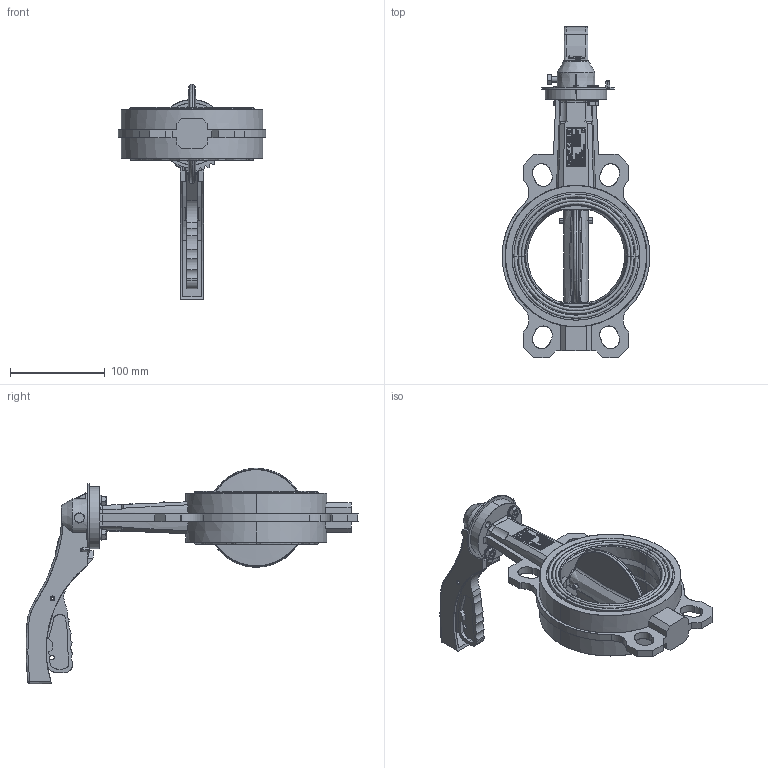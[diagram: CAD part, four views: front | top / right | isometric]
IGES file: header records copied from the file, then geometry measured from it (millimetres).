
Start section: SolidWorks IGES file using analytic representation for surfaces
Global section: file name: H:\BE BIBLIOTHEQUE 3D\BE SECTION 01 - ROBINETS A PAPILLON_VANNES PASSAGE DIRECTE\VP - Vanne Papillon\VPG\WAFER\DN100\VPG444X-02XX0100-Défaut.igs; native system: SolidWorks 2020; preprocessor: SolidWorks 2020; author: k.gigout; date: 220519.181839; units: millimetre
Bounding box: 156 x 350.24 x 227.18 mm (x, y, z)
Surface area: 186598.8 mm2 (no closed solid volume)
Topology: 0 solids, 0 shells, 725 faces, 18691 edges, 18687 vertices
Faces by surface type: bspline 516, revolution 209
